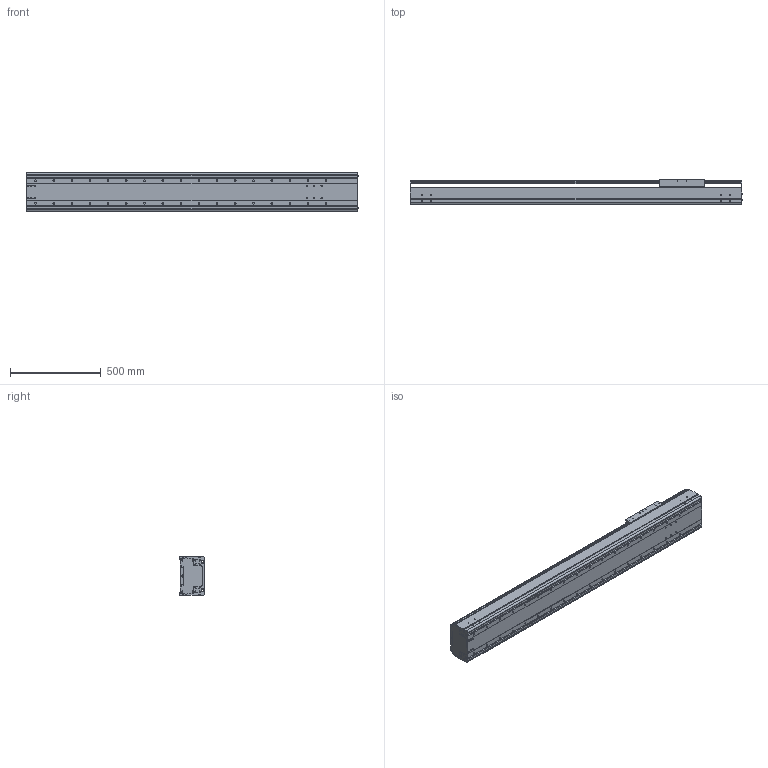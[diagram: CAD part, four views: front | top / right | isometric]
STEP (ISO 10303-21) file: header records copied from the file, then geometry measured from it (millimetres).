
FILE_DESCRIPTION((''),'2;1');
FILE_NAME('BE60J-ST-M_B-D0_IGS_PRT','2017-06-18T',(' '),(''),'PRO/ENGINEER BY PARAMETRIC TECHNOLOGY CORPORATION, 2015030','PRO/ENGINEER BY PARAMETRIC TECHNOLOGY CORPORATION, 2015030','');
FILE_SCHEMA(('CONFIG_CONTROL_DESIGN'));
Length unit declared in the file: millimetre
Products named in the file (1): BE60J-ST-M_B-D0_IGS_PRT
Bounding box: 1827.4 x 140 x 214 mm (x, y, z)
Volume: 14152060.8 mm3; surface area: 3771002.4 mm2
Topology: 2 solids, 28 shells, 1121 faces, 2958 edges, 1906 vertices
Faces by surface type: plane 531, cylinder 490, cone 52, sphere 24, torus 24
Entity records: 34999 total; most frequent: CARTESIAN_POINT 6498, DIRECTION 6112, ORIENTED_EDGE 5716, EDGE_CURVE 2906, AXIS2_PLACEMENT_3D 2194, VERTEX_POINT 1904, VECTOR 1724, LINE 1724
